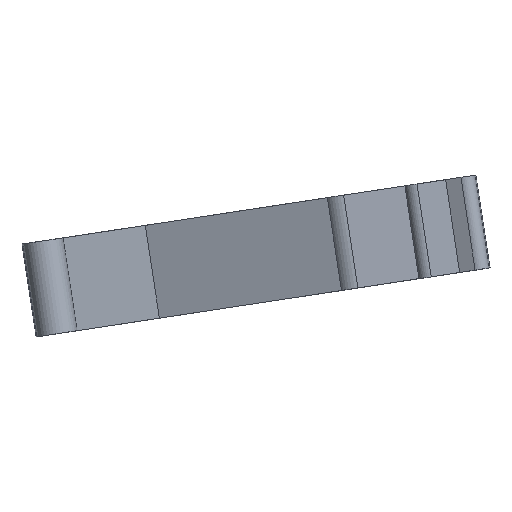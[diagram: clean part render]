
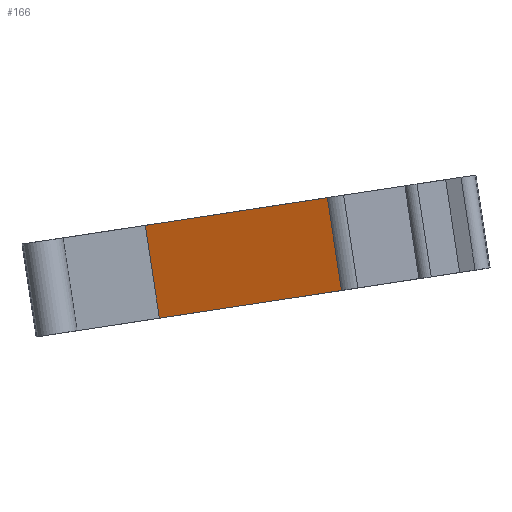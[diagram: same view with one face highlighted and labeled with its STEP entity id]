
A CAD part, left-side view. The second image highlights one B-rep face of the part: STEP entity #166.
In plain terms, the highlighted planar face has unit normal (-0.946, 0.322, -0.049).
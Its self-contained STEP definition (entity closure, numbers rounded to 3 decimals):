
#85=PLANE('',#1778);
#166=ADVANCED_FACE('',(#272),#85,.F.);
#272=FACE_OUTER_BOUND('',#353,.T.);
#353=EDGE_LOOP('',(#1036,#1037,#1038,#1039));
#536=LINE('',#2690,#723);
#537=LINE('',#2694,#724);
#538=LINE('',#2696,#725);
#539=LINE('',#2698,#726);
#723=VECTOR('',#2211,1.);
#724=VECTOR('',#2216,1.);
#725=VECTOR('',#2217,1.);
#726=VECTOR('',#2218,1.);
#1036=ORIENTED_EDGE('',*,*,#1593,.F.);
#1037=ORIENTED_EDGE('',*,*,#1594,.T.);
#1038=ORIENTED_EDGE('',*,*,#1595,.T.);
#1039=ORIENTED_EDGE('',*,*,#1591,.F.);
#1358=VERTEX_POINT('',#2689);
#1359=VERTEX_POINT('',#2691);
#1360=VERTEX_POINT('',#2695);
#1361=VERTEX_POINT('',#2697);
#1591=EDGE_CURVE('',#1358,#1359,#536,.T.);
#1593=EDGE_CURVE('',#1360,#1358,#537,.T.);
#1594=EDGE_CURVE('',#1360,#1361,#538,.T.);
#1595=EDGE_CURVE('',#1361,#1359,#539,.T.);
#1778=AXIS2_PLACEMENT_3D('',#2699,#2219,#2220);
#2211=DIRECTION('',(0.,-0.15,-0.989));
#2216=DIRECTION('',(-0.326,-0.935,0.142));
#2217=DIRECTION('',(0.,-0.15,-0.989));
#2218=DIRECTION('',(-0.326,-0.935,0.142));
#2219=DIRECTION('',(0.946,-0.322,0.049));
#2220=DIRECTION('',(0.322,0.947,0.));
#2689=CARTESIAN_POINT('',(2712.912,-980.287,2.73));
#2690=CARTESIAN_POINT('',(2712.912,-981.716,-6.662));
#2691=CARTESIAN_POINT('',(2712.912,-981.716,-6.662));
#2694=CARTESIAN_POINT('',(2712.912,-980.287,2.73));
#2695=CARTESIAN_POINT('',(2719.329,-961.861,-0.072));
#2696=CARTESIAN_POINT('',(2719.329,-963.289,-9.464));
#2697=CARTESIAN_POINT('',(2719.329,-963.289,-9.464));
#2698=CARTESIAN_POINT('',(2712.912,-981.716,-6.662));
#2699=CARTESIAN_POINT('',(2712.912,-981.716,-6.662));
